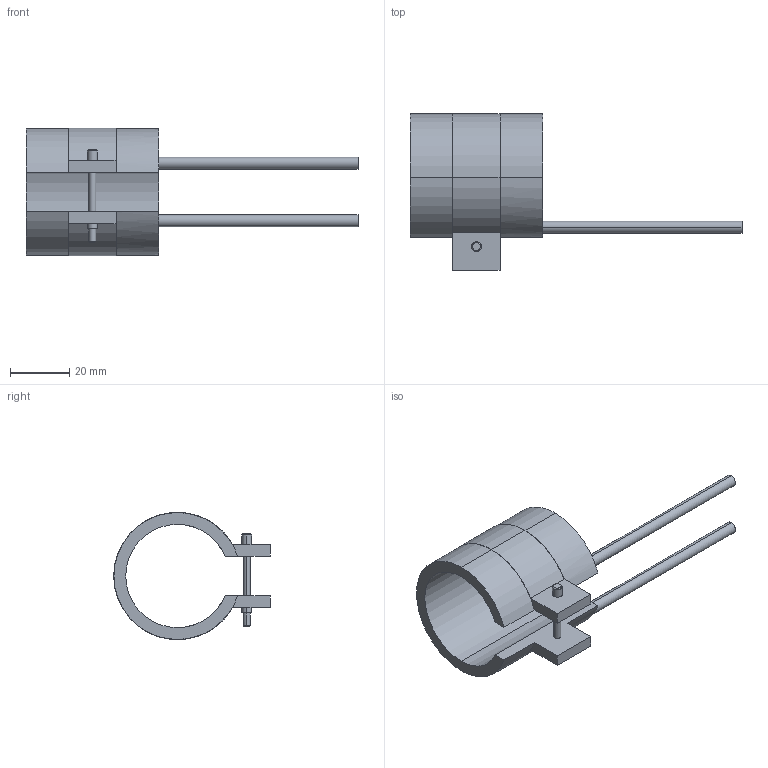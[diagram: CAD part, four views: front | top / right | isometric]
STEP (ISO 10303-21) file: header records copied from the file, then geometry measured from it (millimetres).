
FILE_DESCRIPTION(('CATIA V5 STEP Exchange'),'2;1');
FILE_NAME('C:\Users\Utente\Desktop\IO LAVORO\3D X SITO CF\X SITO\PLASTICA\RF2\14035045.stp','2021-03-31T11:35:31+00:00',('none'),('none'),'CATIA Version 5 Release 20 GA (IN-10)','CATIA V5 STEP AP203','none');
FILE_SCHEMA(('CONFIG_CONTROL_DESIGN'));
Length unit declared in the file: millimetre
Products named in the file (1): 14035045
Bounding box: 112.5 x 53.1 x 43.2 mm (x, y, z)
Volume: 23095.4 mm3; surface area: 13886 mm2
Topology: 1 solids, 1 shells, 45 faces, 116 edges, 76 vertices
Faces by surface type: cylinder 24, plane 17, cone 4
Entity records: 1412 total; most frequent: CARTESIAN_POINT 288, ORIENTED_EDGE 232, DIRECTION 195, EDGE_CURVE 116, AXIS2_PLACEMENT_3D 103, VERTEX_POINT 76, CIRCLE 61, VECTOR 52
